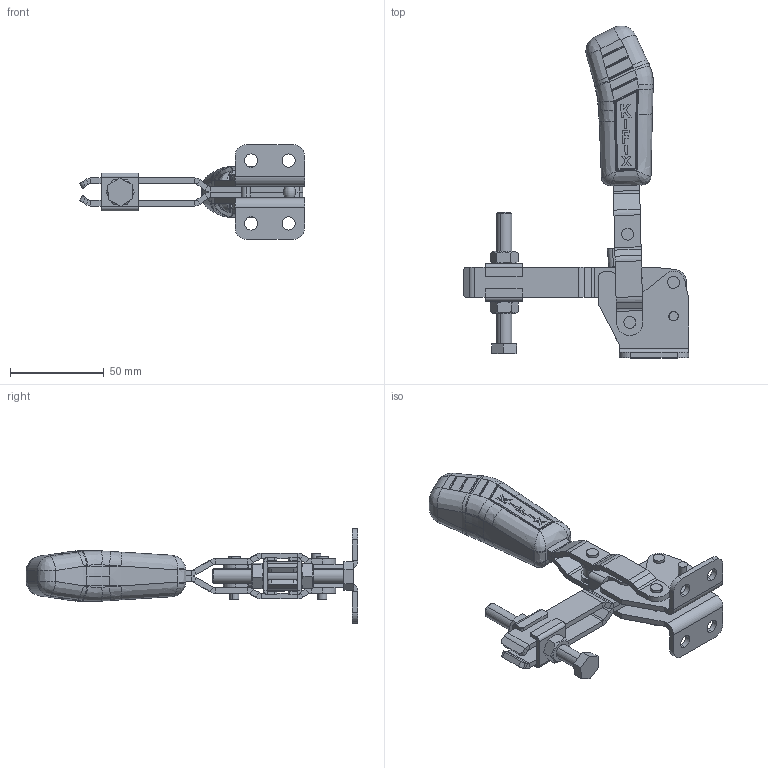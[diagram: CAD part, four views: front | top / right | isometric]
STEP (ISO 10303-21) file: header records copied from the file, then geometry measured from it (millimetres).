
FILE_DESCRIPTION (( 'STEP AP203' ), '1' );
FILE_NAME ('KF-018 DB.STEP', '2016-02-26T11:40:19', ( 'Ricardo' ), ( '' ), 'SwSTEP 2.0', 'SolidWorks 2015', '' );
FILE_SCHEMA (( 'CONFIG_CONTROL_DESIGN' ));
Length unit declared in the file: millimetre
Products named in the file (15): 01.10005; 04.20001; KF-018 DB; 05.20017; 06.50001; 06.50002; 02.12008_Direita; 07.60001; 02.12008_Esquerda; 11.50002; 03.13004_Direita; 12.50003; 03.13004_Esquerda; 14.10001; 04.10001
Assembly tree (19 placements, depth 2):
  KF-018 DB
    02.12008_Direita
    02.12008_Esquerda
    03.13004_Direita
    03.13004_Esquerda
    04.10001
    04.20001
    05.20017
    06.50001  x2
    06.50002  x2
    07.60001
    11.50002  x2
    12.50003
    14.10001  x2
    01.10005  x2
Bounding box: 119.9 x 176.75 x 50.5 mm (x, y, z)
Volume: 92344.6 mm3; surface area: 51909.8 mm2
Topology: 19 solids, 19 shells, 802 faces, 1945 edges, 1196 vertices
Faces by surface type: plane 388, cylinder 249, bspline 126, cone 34, torus 5
Entity records: 25201 total; most frequent: CARTESIAN_POINT 8723, ORIENTED_EDGE 3322, DIRECTION 2671, EDGE_CURVE 1661, VERTEX_POINT 1038, AXIS2_PLACEMENT_3D 940, VECTOR 791, LINE 791
